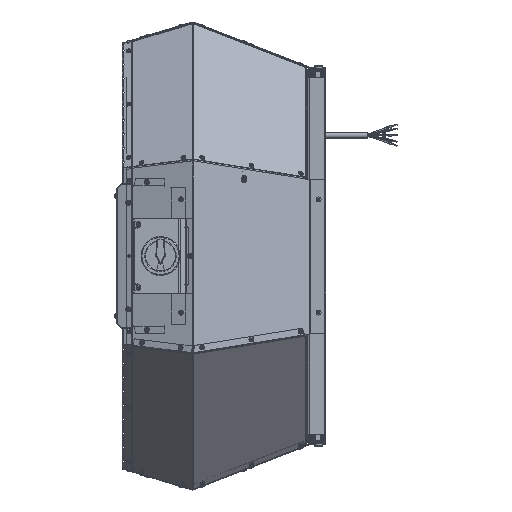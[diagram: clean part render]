
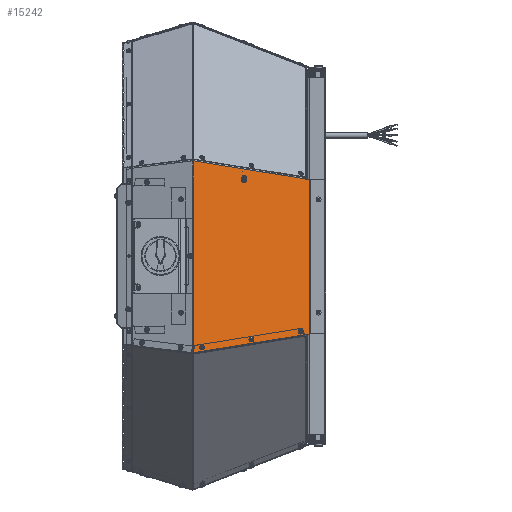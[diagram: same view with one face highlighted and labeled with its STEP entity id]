
A CAD part, left-side view. The second image highlights one B-rep face of the part: STEP entity #15242.
In plain terms, the highlighted planar face has unit normal (-0.932, -0.362, 0).
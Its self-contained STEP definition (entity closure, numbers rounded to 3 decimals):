
#3298 = AXIS2_PLACEMENT_3D ( 'NONE', #90517, #90519, #90521 ) ;
#3301 = AXIS2_PLACEMENT_3D ( 'NONE', #90524, #90526, #90528 ) ;
#3303 = AXIS2_PLACEMENT_3D ( 'NONE', #90532, #90534, #90536 ) ;
#3305 = AXIS2_PLACEMENT_3D ( 'NONE', #90542, #90544, #90545 ) ;
#7120 = CARTESIAN_POINT ( 'NONE',  ( -303.037, 9.137, 121.257 ) ) ;
#7718 = CARTESIAN_POINT ( 'NONE',  ( -336.557, 95.334, -132.916 ) ) ;
#7808 = EDGE_CURVE ( 'NONE', #15675, #15829, #105974, .T. ) ;
#7817 = DIRECTION ( 'NONE',  ( -0.362, 0.932, 0. ) ) ;
#7830 = EDGE_CURVE ( 'NONE', #15743, #15778, #106011, .T. ) ;
#7848 = DIRECTION ( 'NONE',  ( 0.932, 0.362, 0. ) ) ;
#7879 = CARTESIAN_POINT ( 'NONE',  ( -372.308, 187.269, 151.275 ) ) ;
#7909 = DIRECTION ( 'NONE',  ( -0.362, 0.932, 0. ) ) ;
#7977 = DIRECTION ( 'NONE',  ( 0.932, 0.362, 0. ) ) ;
#7979 = CARTESIAN_POINT ( 'NONE',  ( -300.387, 2.323, 153.95 ) ) ;
#8055 = CARTESIAN_POINT ( 'NONE',  ( -306.091, 16.991, -120.3 ) ) ;
#8068 = EDGE_CURVE ( 'NONE', #32125, #18245, #106334, .T. ) ;
#8070 = EDGE_CURVE ( 'NONE', #18534, #18539, #106325, .T. ) ;
#8074 = EDGE_CURVE ( 'NONE', #18539, #18534, #106343, .T. ) ;
#8076 = EDGE_CURVE ( 'NONE', #18430, #18496, #106348, .T. ) ;
#8078 = EDGE_CURVE ( 'NONE', #15829, #15743, #106345, .T. ) ;
#8081 = EDGE_CURVE ( 'NONE', #18238, #15675, #106351, .T. ) ;
#8147 = CARTESIAN_POINT ( 'NONE',  ( -306.091, 16.991, -120.3 ) ) ;
#8157 = DIRECTION ( 'NONE',  ( -0.362, 0.932, 0. ) ) ;
#8249 = DIRECTION ( 'NONE',  ( 0.127, -0.327, 0.936 ) ) ;
#8254 = DIRECTION ( 'NONE',  ( 0., 0., -1. ) ) ;
#8259 = DIRECTION ( 'NONE',  ( 0.932, 0.362, 0. ) ) ;
#8496 = CARTESIAN_POINT ( 'NONE',  ( -336.557, 95.334, -132.916 ) ) ;
#8527 = DIRECTION ( 'NONE',  ( -0.362, 0.932, 0. ) ) ;
#8596 = EDGE_CURVE ( 'NONE', #18245, #32125, #107138, .T. ) ;
#8614 = DIRECTION ( 'NONE',  ( 0.932, 0.362, 0. ) ) ;
#8739 = DIRECTION ( 'NONE',  ( 0., 0., -1. ) ) ;
#15242 = ADVANCED_FACE ( 'NONE', ( #95684, #95691, #95686, #95690, #95688 ), #104773, .F. ) ;
#15675 = VERTEX_POINT ( 'NONE', #25585 ) ;
#15743 = VERTEX_POINT ( 'NONE', #26273 ) ;
#15778 = VERTEX_POINT ( 'NONE', #26185 ) ;
#15829 = VERTEX_POINT ( 'NONE', #25899 ) ;
#18231 = VERTEX_POINT ( 'NONE', #31338 ) ;
#18238 = VERTEX_POINT ( 'NONE', #31345 ) ;
#18245 = VERTEX_POINT ( 'NONE', #31348 ) ;
#18255 = VERTEX_POINT ( 'NONE', #31358 ) ;
#18256 = VERTEX_POINT ( 'NONE', #31362 ) ;
#18257 = VERTEX_POINT ( 'NONE', #31363 ) ;
#18430 = VERTEX_POINT ( 'NONE', #31396 ) ;
#18496 = VERTEX_POINT ( 'NONE', #31419 ) ;
#18534 = VERTEX_POINT ( 'NONE', #31131 ) ;
#18539 = VERTEX_POINT ( 'NONE', #31163 ) ;
#25585 = CARTESIAN_POINT ( 'NONE',  ( -303.037, 9.137, 121.257 ) ) ;
#25899 = CARTESIAN_POINT ( 'NONE',  ( -300.387, 2.323, 121.257 ) ) ;
#26185 = CARTESIAN_POINT ( 'NONE',  ( -372.298, 187.241, -153.95 ) ) ;
#26273 = CARTESIAN_POINT ( 'NONE',  ( -300.387, 2.323, -124.164 ) ) ;
#31131 = CARTESIAN_POINT ( 'NONE',  ( -306.852, 18.948, -120.3 ) ) ;
#31163 = CARTESIAN_POINT ( 'NONE',  ( -305.33, 15.034, -120.3 ) ) ;
#31338 = CARTESIAN_POINT ( 'NONE',  ( -340.004, 104.199, 121.298 ) ) ;
#31345 = CARTESIAN_POINT ( 'NONE',  ( -303.037, 9.137, 122.861 ) ) ;
#31348 = CARTESIAN_POINT ( 'NONE',  ( -335.796, 93.377, -132.916 ) ) ;
#31358 = CARTESIAN_POINT ( 'NONE',  ( -366.262, 171.72, -145.533 ) ) ;
#31362 = CARTESIAN_POINT ( 'NONE',  ( -341.527, 108.114, 121.298 ) ) ;
#31363 = CARTESIAN_POINT ( 'NONE',  ( -367.784, 175.634, -145.533 ) ) ;
#31396 = CARTESIAN_POINT ( 'NONE',  ( -372.298, 187.241, 151.354 ) ) ;
#31419 = CARTESIAN_POINT ( 'NONE',  ( -372.272, 187.176, 151.54 ) ) ;
#32125 = VERTEX_POINT ( 'NONE', #113639 ) ;
#37999 = DIRECTION ( 'NONE',  ( -0.358, 0.922, -0.148 ) ) ;
#38001 = CARTESIAN_POINT ( 'NONE',  ( -300.387, 2.323, -124.164 ) ) ;
#38222 = CARTESIAN_POINT ( 'NONE',  ( -300.387, 2.323, 121.257 ) ) ;
#39746 = DIRECTION ( 'NONE',  ( 0.362, -0.932, 0. ) ) ;
#60890 = EDGE_CURVE ( 'NONE', #18255, #18257, #89067, .T. ) ;
#60891 = EDGE_CURVE ( 'NONE', #18257, #18255, #89047, .T. ) ;
#60892 = EDGE_CURVE ( 'NONE', #18256, #18231, #89070, .T. ) ;
#60893 = EDGE_CURVE ( 'NONE', #18231, #18256, #89069, .T. ) ;
#60894 = EDGE_CURVE ( 'NONE', #18238, #18496, #89072, .T. ) ;
#60899 = EDGE_CURVE ( 'NONE', #18430, #15778, #89075, .T. ) ;
#86628 = AXIS2_PLACEMENT_3D ( 'NONE', #8496, #8614, #8527 ) ;
#86632 = AXIS2_PLACEMENT_3D ( 'NONE', #8055, #7977, #8157 ) ;
#86637 = AXIS2_PLACEMENT_3D ( 'NONE', #8147, #8259, #7909 ) ;
#86833 = AXIS2_PLACEMENT_3D ( 'NONE', #7718, #7848, #7817 ) ;
#89047 = CIRCLE ( 'NONE', #3301, 2.1 ) ;
#89067 = CIRCLE ( 'NONE', #3298, 2.1 ) ;
#89069 = CIRCLE ( 'NONE', #3305, 2.1 ) ;
#89070 = CIRCLE ( 'NONE', #3303, 2.1 ) ;
#89072 = LINE ( 'NONE', #90513, #89074 ) ;
#89074 = VECTOR ( 'NONE', #90530, 1000. ) ;
#89075 = LINE ( 'NONE', #90579, #89078 ) ;
#89078 = VECTOR ( 'NONE', #90586, 1000. ) ;
#90513 = CARTESIAN_POINT ( 'NONE',  ( -300.515, 2.651, 121.816 ) ) ;
#90517 = CARTESIAN_POINT ( 'NONE',  ( -367.023, 173.677, -145.533 ) ) ;
#90519 = DIRECTION ( 'NONE',  ( 0.932, 0.362, 0. ) ) ;
#90521 = DIRECTION ( 'NONE',  ( -0.362, 0.932, 0. ) ) ;
#90524 = CARTESIAN_POINT ( 'NONE',  ( -367.023, 173.677, -145.533 ) ) ;
#90526 = DIRECTION ( 'NONE',  ( 0.932, 0.362, 0. ) ) ;
#90528 = DIRECTION ( 'NONE',  ( -0.362, 0.932, 0. ) ) ;
#90530 = DIRECTION ( 'NONE',  ( -0.358, 0.922, 0.148 ) ) ;
#90532 = CARTESIAN_POINT ( 'NONE',  ( -340.766, 106.157, 121.298 ) ) ;
#90534 = DIRECTION ( 'NONE',  ( -0.932, -0.362, 0. ) ) ;
#90536 = DIRECTION ( 'NONE',  ( 0.362, -0.932, 0. ) ) ;
#90542 = CARTESIAN_POINT ( 'NONE',  ( -340.766, 106.157, 121.298 ) ) ;
#90544 = DIRECTION ( 'NONE',  ( -0.932, -0.362, 0. ) ) ;
#90545 = DIRECTION ( 'NONE',  ( 0.362, -0.932, 0. ) ) ;
#90579 = CARTESIAN_POINT ( 'NONE',  ( -372.298, 187.241, 153.95 ) ) ;
#90586 = DIRECTION ( 'NONE',  ( 0., 0., -1. ) ) ;
#95684 = FACE_BOUND ( 'NONE', #124754, .T. ) ;
#95686 = FACE_BOUND ( 'NONE', #124575, .T. ) ;
#95688 = FACE_OUTER_BOUND ( 'NONE', #124666, .T. ) ;
#95690 = FACE_BOUND ( 'NONE', #124566, .T. ) ;
#95691 = FACE_BOUND ( 'NONE', #124664, .T. ) ;
#97366 = AXIS2_PLACEMENT_3D ( 'NONE', #104782, #104784, #104753 ) ;
#104753 = DIRECTION ( 'NONE',  ( -0.362, 0.932, 0. ) ) ;
#104773 = PLANE ( 'NONE',  #97366 ) ;
#104782 = CARTESIAN_POINT ( 'NONE',  ( -372.595, 188.007, 153.95 ) ) ;
#104784 = DIRECTION ( 'NONE',  ( 0.932, 0.362, 0. ) ) ;
#105974 = LINE ( 'NONE', #38222, #105980 ) ;
#105980 = VECTOR ( 'NONE', #39746, 1000. ) ;
#106011 = LINE ( 'NONE', #38001, #106019 ) ;
#106019 = VECTOR ( 'NONE', #37999, 1000. ) ;
#106325 = CIRCLE ( 'NONE', #86632, 2.1 ) ;
#106334 = CIRCLE ( 'NONE', #86628, 2.1 ) ;
#106343 = CIRCLE ( 'NONE', #86637, 2.1 ) ;
#106345 = LINE ( 'NONE', #7979, #106359 ) ;
#106348 = LINE ( 'NONE', #7879, #106354 ) ;
#106351 = LINE ( 'NONE', #7120, #106365 ) ;
#106354 = VECTOR ( 'NONE', #8249, 1000. ) ;
#106359 = VECTOR ( 'NONE', #8739, 1000. ) ;
#106365 = VECTOR ( 'NONE', #8254, 1000. ) ;
#107138 = CIRCLE ( 'NONE', #86833, 2.1 ) ;
#113639 = CARTESIAN_POINT ( 'NONE',  ( -337.318, 97.291, -132.916 ) ) ;
#115548 = ORIENTED_EDGE ( 'NONE', *, *, #8076, .F. ) ;
#115553 = ORIENTED_EDGE ( 'NONE', *, *, #60899, .T. ) ;
#115558 = ORIENTED_EDGE ( 'NONE', *, *, #8074, .T. ) ;
#115563 = ORIENTED_EDGE ( 'NONE', *, *, #60894, .T. ) ;
#115568 = ORIENTED_EDGE ( 'NONE', *, *, #8596, .T. ) ;
#115573 = ORIENTED_EDGE ( 'NONE', *, *, #8070, .T. ) ;
#115588 = ORIENTED_EDGE ( 'NONE', *, *, #7808, .F. ) ;
#115593 = ORIENTED_EDGE ( 'NONE', *, *, #8081, .F. ) ;
#115598 = ORIENTED_EDGE ( 'NONE', *, *, #7830, .F. ) ;
#115603 = ORIENTED_EDGE ( 'NONE', *, *, #8078, .F. ) ;
#115692 = ORIENTED_EDGE ( 'NONE', *, *, #60890, .T. ) ;
#115697 = ORIENTED_EDGE ( 'NONE', *, *, #8068, .T. ) ;
#115702 = ORIENTED_EDGE ( 'NONE', *, *, #60892, .F. ) ;
#115707 = ORIENTED_EDGE ( 'NONE', *, *, #60891, .T. ) ;
#115717 = ORIENTED_EDGE ( 'NONE', *, *, #60893, .F. ) ;
#124566 = EDGE_LOOP ( 'NONE', ( #115573, #115558 ) ) ;
#124575 = EDGE_LOOP ( 'NONE', ( #115697, #115568 ) ) ;
#124664 = EDGE_LOOP ( 'NONE', ( #115707, #115692 ) ) ;
#124666 = EDGE_LOOP ( 'NONE', ( #115563, #115548, #115553, #115598, #115603, #115588, #115593 ) ) ;
#124754 = EDGE_LOOP ( 'NONE', ( #115717, #115702 ) ) ;
